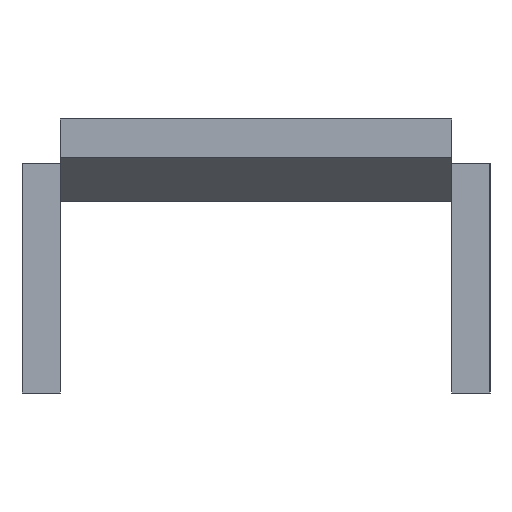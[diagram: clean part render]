
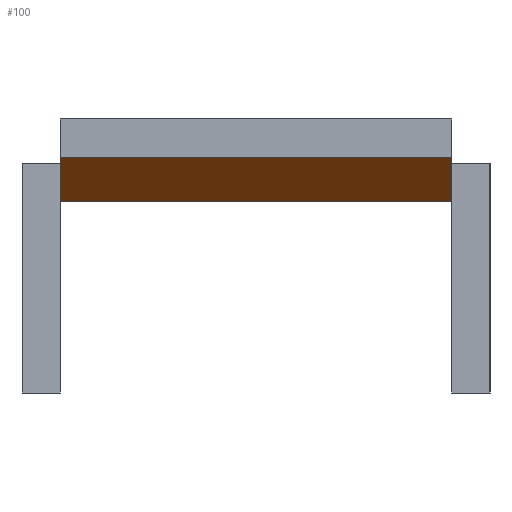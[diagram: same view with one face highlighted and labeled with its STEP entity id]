
A CAD part, left-side view. The second image highlights one B-rep face of the part: STEP entity #100.
In plain terms, the highlighted planar face has unit normal (-0.5, 0, -0.866).
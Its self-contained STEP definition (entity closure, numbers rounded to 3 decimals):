
#100 = ADVANCED_FACE( '', ( #202 ), #203, .F. );
#202 = FACE_OUTER_BOUND( '', #299, .T. );
#203 = PLANE( '', #300 );
#299 = EDGE_LOOP( '', ( #534, #535, #536, #537 ) );
#300 = AXIS2_PLACEMENT_3D( '', #538, #539, #540 );
#534 = ORIENTED_EDGE( '', *, *, #635, .T. );
#535 = ORIENTED_EDGE( '', *, *, #660, .T. );
#536 = ORIENTED_EDGE( '', *, *, #570, .F. );
#537 = ORIENTED_EDGE( '', *, *, #663, .F. );
#538 = CARTESIAN_POINT( '', ( -423.537, 9.22, -4.309 ) );
#539 = DIRECTION( '', ( 0.5, 0., 0.866 ) );
#540 = DIRECTION( '', ( 0.866, 0., -0.5 ) );
#570 = EDGE_CURVE( '', #671, #672, #673, .T. );
#635 = EDGE_CURVE( '', #776, #774, #777, .T. );
#660 = EDGE_CURVE( '', #774, #672, #808, .T. );
#663 = EDGE_CURVE( '', #776, #671, #811, .T. );
#671 = VERTEX_POINT( '', #819 );
#672 = VERTEX_POINT( '', #820 );
#673 = LINE( '', #821, #822 );
#774 = VERTEX_POINT( '', #971 );
#776 = VERTEX_POINT( '', #974 );
#777 = LINE( '', #975, #976 );
#808 = LINE( '', #1021, #1022 );
#811 = LINE( '', #1025, #1026 );
#819 = CARTESIAN_POINT( '', ( -427.536, 10.22, -2. ) );
#820 = CARTESIAN_POINT( '', ( -427.536, -10.22, -2. ) );
#821 = CARTESIAN_POINT( '', ( -427.536, 9.22, -2. ) );
#822 = VECTOR( '', #1035, 1000. );
#971 = CARTESIAN_POINT( '', ( -423.537, -10.22, -4.309 ) );
#974 = CARTESIAN_POINT( '', ( -423.537, 10.22, -4.309 ) );
#975 = CARTESIAN_POINT( '', ( -423.537, 9.22, -4.309 ) );
#976 = VECTOR( '', #1088, 1000. );
#1021 = CARTESIAN_POINT( '', ( -423.537, -10.22, -4.309 ) );
#1022 = VECTOR( '', #1109, 1000. );
#1025 = CARTESIAN_POINT( '', ( -423.537, 10.22, -4.309 ) );
#1026 = VECTOR( '', #1110, 1000. );
#1035 = DIRECTION( '', ( 0., -1., 0. ) );
#1088 = DIRECTION( '', ( 0., -1., 0. ) );
#1109 = DIRECTION( '', ( -0.866, 0., 0.5 ) );
#1110 = DIRECTION( '', ( -0.866, 0., 0.5 ) );
